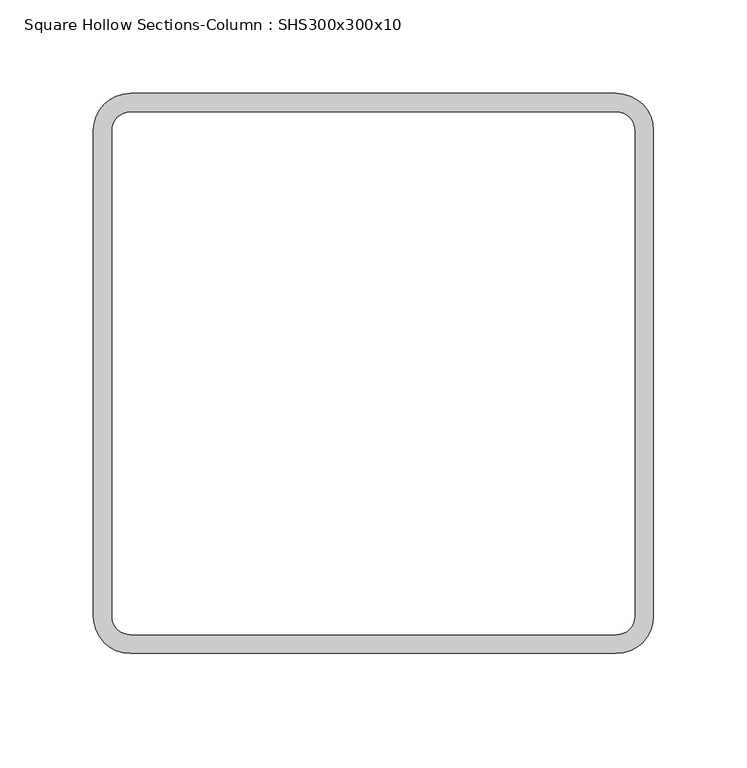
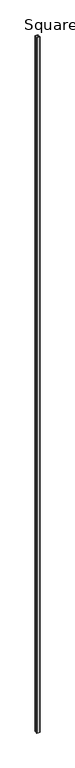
"""IFC4 building model written with IfcOpenShell, lengths in millimetres: column geometry, Square Hollow Sections-Column : SHS300x300x10."""

from ifc_helpers import new_model, si_unit, point, frame_2d, origin, origin_with_axes, place, context, project, spatial, polyline, circle_curve, trimmed, segment, composite_curve, outline, extrude, source, transform, mapped, element, save


def square_hollow_sections_column_shs300x300x10_072c9116(model_context):
    return source(origin(), model_context, "Body", "SweptSolid", [
        extrude(outline(composite_curve([segment(trimmed(circle_curve(frame_2d((130.0, 130.0)), 20.0), [point((130.0, 150.0))], [point((150.0, 130.0))], False, "CARTESIAN"), True, "CONTINUOUS"), segment(polyline([(150.0, 130.0), (150.0, -130.0)]), True, "CONTINUOUS"), segment(trimmed(circle_curve(frame_2d((130.0, -130.0)), 20.0), [point((150.0, -130.0))], [point((130.0, -150.0))], False, "CARTESIAN"), True, "CONTINUOUS"), segment(polyline([(130.0, -150.0), (-130.0, -150.0)]), True, "CONTINUOUS"), segment(trimmed(circle_curve(frame_2d((-130.0, -130.0)), 20.0), [point((-130.0, -150.0))], [point((-150.0, -130.0))], False, "CARTESIAN"), True, "CONTINUOUS"), segment(polyline([(-150.0, -130.0), (-150.0, 130.0)]), True, "CONTINUOUS"), segment(trimmed(circle_curve(frame_2d((-130.0, 130.0)), 20.0), [point((-150.0, 130.0))], [point((-130.0, 150.0))], False, "CARTESIAN"), True, "CONTINUOUS"), segment(polyline([(-130.0, 150.0), (130.0, 150.0)]), True, "CONTINUOUS")], self_intersect=False), holes=[composite_curve([segment(polyline([(130.0, 140.0), (-130.0, 140.0)]), True, "CONTINUOUS"), segment(trimmed(circle_curve(frame_2d((-130.0, 130.0)), 10.0), [point((-130.0, 140.0))], [point((-140.0, 130.0))], True, "CARTESIAN"), True, "CONTINUOUS"), segment(polyline([(-140.0, 130.0), (-140.0, -130.0)]), True, "CONTINUOUS"), segment(trimmed(circle_curve(frame_2d((-130.0, -130.0)), 10.0), [point((-140.0, -130.0))], [point((-130.0, -140.0))], True, "CARTESIAN"), True, "CONTINUOUS"), segment(polyline([(-130.0, -140.0), (130.0, -140.0)]), True, "CONTINUOUS"), segment(trimmed(circle_curve(frame_2d((130.0, -130.0)), 10.0), [point((130.0, -140.0))], [point((140.0, -130.0))], True, "CARTESIAN"), True, "CONTINUOUS"), segment(polyline([(140.0, -130.0), (140.0, 130.0)]), True, "CONTINUOUS"), segment(trimmed(circle_curve(frame_2d((130.0, 130.0)), 10.0), [point((140.0, 130.0))], [point((130.0, 140.0))], True, "CARTESIAN"), True, "CONTINUOUS")], self_intersect=False)]), origin_with_axes(), (0.0, 0.0, 1.0), 64922.6),
    ])


if __name__ == "__main__":
    model = new_model("IFC4")
    model_context = context("Model", 3, world=origin())
    ifc_project = project(units=[si_unit("LENGTHUNIT", "METRE", prefix="MILLI")], contexts=[model_context])
    site = spatial("IfcSite", under=ifc_project)
    building = spatial("IfcBuilding", under=site)
    placement = place(None, origin())
    square_hollow_sections_column_shs300x300x10_shape = square_hollow_sections_column_shs300x300x10_072c9116(model_context)
    element("IfcColumn", 1, ObjectType="Square Hollow Sections-Column : SHS300x300x10", at=placement, inside=building, context=model_context, shape_type="MappedRepresentation", body=[
        mapped(square_hollow_sections_column_shs300x300x10_shape, transform((0.0, 0.0, 0.0), x_axis=(1.0, 0.0, 0.0), y_axis=(0.0, 1.0, 0.0), z_axis=(0.0, 0.0, 1.0))),
    ])
    save(model, "model.ifc")
